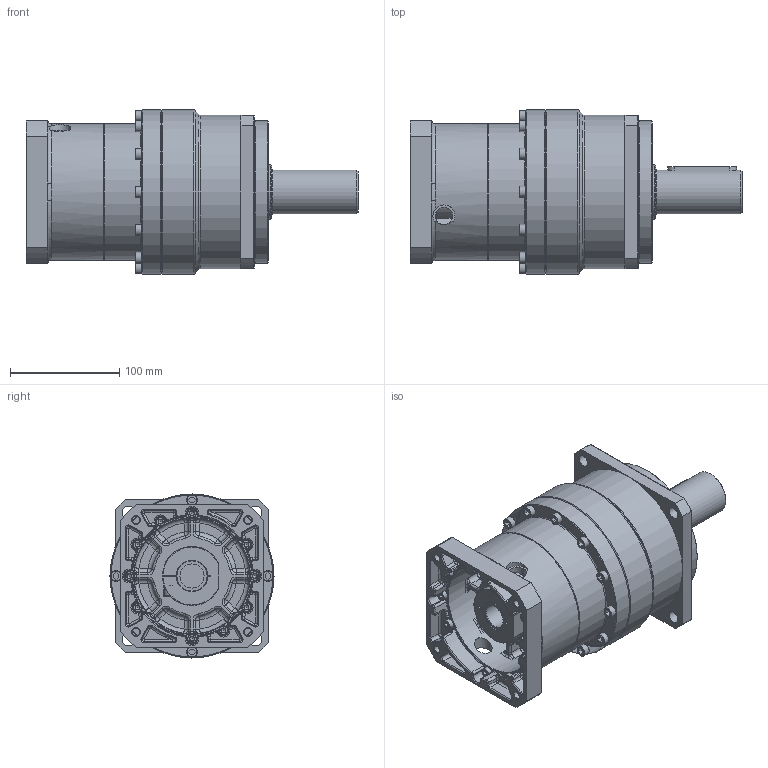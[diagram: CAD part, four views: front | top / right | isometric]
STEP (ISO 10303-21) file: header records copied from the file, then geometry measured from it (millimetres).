
FILE_DESCRIPTION(/* description */ (''),/* implementation_level */ '2;1');
FILE_NAME(/* name */ 'WEB140-L2-110-145-M8-22-64_stp.prt.stp',/* time_stamp */ '2025-08-04T14:05:37+08:00',/* author */ (''),/* organization */ (''),/* preprocessor_version */ 'ST-DEVELOPER v16.7',/* originating_system */ 'SIEMENS PLM Software NX 12.0',/* authorisation */ '');
FILE_SCHEMA (('AUTOMOTIVE_DESIGN { 1 0 10303 214 3 1 1 1 }'));
Length unit declared in the file: millimetre
Products named in the file (3): 140A_ring_gear; WVRB140_body1; WEB115-L1-110-145-M8-22-64_stp
Assembly tree (2 placements, depth 2):
  WEB115-L1-110-145-M8-22-64_stp
    WVRB140_body1
    140A_ring_gear
Bounding box: 303.5 x 150 x 150 mm (x, y, z)
Volume: 2946389.3 mm3; surface area: 285371.9 mm2
Topology: 5 solids, 5 shells, 1266 faces, 2877 edges, 1618 vertices
Faces by surface type: plane 411, cylinder 346, torus 231, cone 123, bspline 123, sphere 32
Full cylindrical faces by diameter (mm): 4.826 x10, 5.5 x10, 6.8 x4, 8 x1, 8.5 x11, 10 x12, 11 x4, 12.88 x1, 13 x1, 13.835 x1, 16 x2, 17 x1, 22 x1, 28 x1, 30 x1, 35 x2, 40 x1, 50 x1, 106 x1, 110 x1, 125 x2, 130 x1, 140 x1, 150 x2
Entity records: 38954 total; most frequent: CARTESIAN_POINT 11234, DIRECTION 5881, ORIENTED_EDGE 5252, EDGE_CURVE 2626, AXIS2_PLACEMENT_3D 2457, VERTEX_POINT 1584, EDGE_LOOP 1493, CIRCLE 1311
